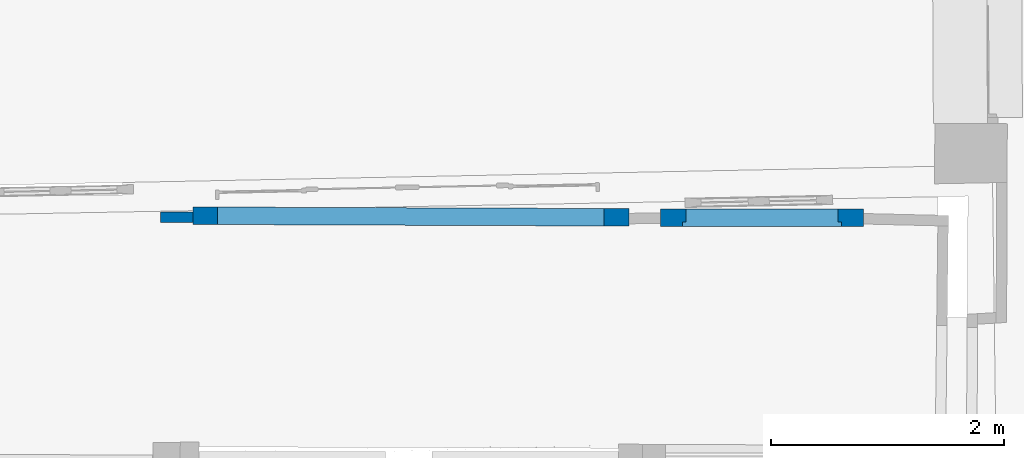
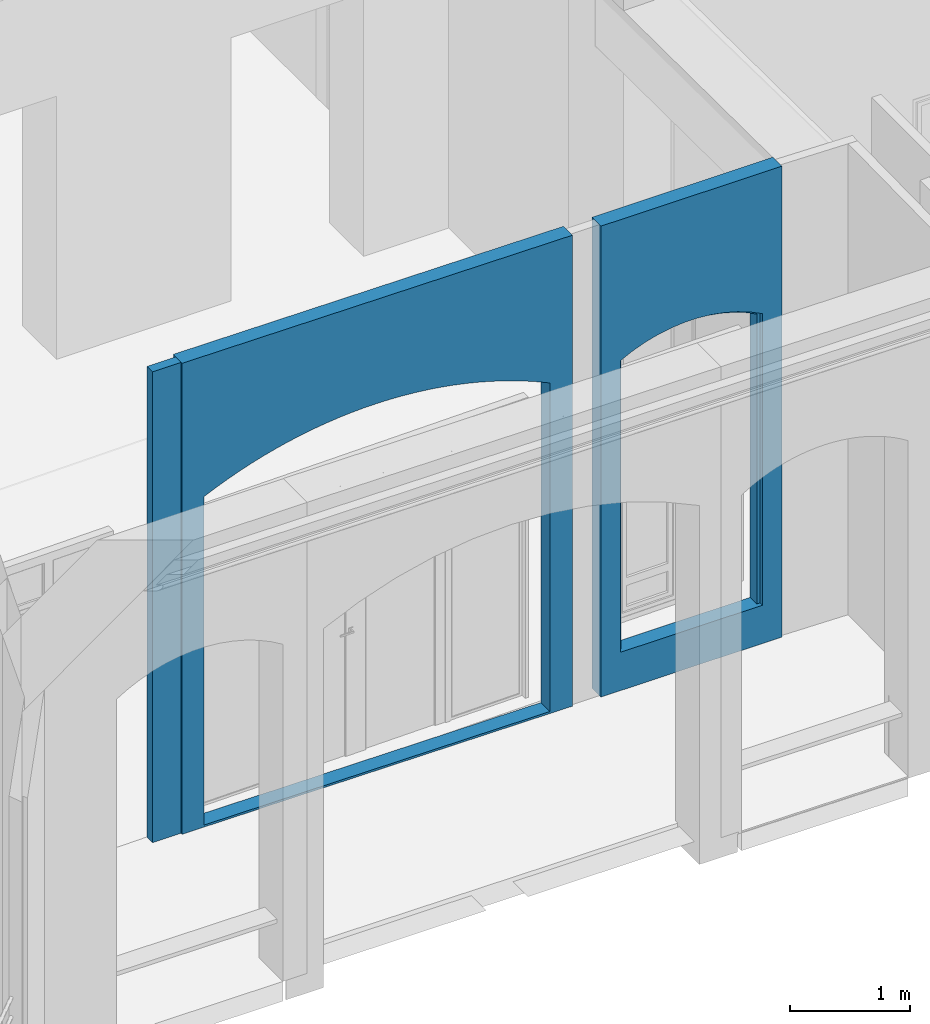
# One storey, part 8 of 97: 3 walls, 2 openings.
"""IFC2X3 building model written with IfcOpenShell, lengths in centimetres."""

from ifc_helpers import new_model, entity, si_unit, converted_unit, point, direction, frame, frame_2d, origin, origin_with_axes, origin_2d_with_axis, place, context, subcontext, project, spatial, polyline, circle_curve, trimmed, segment, composite_curve, rectangle, outline, extrude, faceted_brep, shape, material, layer, layer_set, layer_usage, type_object, element, save


model = new_model("IFC2X3")

# Units and contexts
model_context = context("Model", 3, precision=0.0001, world=origin(), true_north=direction((0.225632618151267, 0.974212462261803, 0.0)))
body_context = subcontext(model_context, "Body", "Model", "MODEL_VIEW")
footprint_context = subcontext(model_context, "FootPrint", "Model", "MODEL_VIEW")
profile_context = subcontext(model_context, "Profile", "Model", "MODEL_VIEW")
ifc_project = project(units=[si_unit("LENGTHUNIT", "METRE", prefix="CENTI"), si_unit("AREAUNIT", "SQUARE_METRE", prefix="CENTI"), si_unit("VOLUMEUNIT", "CUBIC_METRE", prefix="CENTI"), converted_unit("PLANEANGLEUNIT", "DEGREE", entity("IfcRatioMeasure", 0.0174532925), si_unit("PLANEANGLEUNIT", "RADIAN"), dimensions=[0, 0, 0, 0, 0, 0, 0])], contexts=[model_context])

# Site, building, storey
site_placement = place(None, origin_with_axes())
site = spatial("IfcSite", under=ifc_project, at=site_placement, Name="Default Site", CompositionType="ELEMENT")
building_placement = place(site_placement, origin_with_axes())
building = spatial("IfcBuilding", under=site, at=building_placement, Name="Default Building", CompositionType="ELEMENT")
storey_placement = place(building_placement, origin_with_axes())
storey = spatial("IfcBuildingStorey", under=building, at=storey_placement, Name="Rez-de-chaussée", CompositionType="ELEMENT", Elevation=0.0)

# Wall
ifc_material = material(Name="<aucun>")
ifc_layer_1 = layer(ifc_material, 9.0)
ifc_layer_set_1 = layer_set([ifc_layer_1], Name="default")
ifc_layer_usage_1 = layer_usage(ifc_layer_set_1, "AXIS2", "POSITIVE", -4.5)
wall_type_1 = type_object("IfcWallType", Name="default 90", PredefinedType="NOTDEFINED", material=ifc_layer_set_1)
wall_1_placement = place(storey_placement, frame((-423.648617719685, -738.485585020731, 0.0128503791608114), z_axis=(0.0, 0.0, 1.0), x_axis=(0.999995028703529, 0.00315318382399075, 0.0)))
element("IfcWallStandardCase", 1, at=wall_1_placement, inside=storey, type_object=wall_type_1, material=ifc_layer_usage_1, Name="Enveloppe 378519", context=body_context, shape_type="SweptSolid", body=[
    extrude(outline(polyline([(0.315310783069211, -4.50000000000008), (27.9587956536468, -4.49999999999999), (27.9587956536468, 4.50000000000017), (0.382259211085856, 4.50000000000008), (0.315310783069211, -4.50000000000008)])), origin_with_axes(), (0.0, 0.0, 1.0), 477.795358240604),
])

# Wall, opening
ifc_layer_2 = layer(ifc_material, 15.0)
ifc_layer_set_2 = layer_set([ifc_layer_2], Name="default")
ifc_layer_usage_2 = layer_usage(ifc_layer_set_2, "AXIS2", "POSITIVE", -7.5)
wall_type_2 = type_object("IfcWallType", Name="default 150", PredefinedType="NOTDEFINED", material=ifc_layer_set_2)
wall_2_placement = place(storey_placement, frame((5.13642061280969, -739.030000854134, 0.0128503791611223), z_axis=(0.0, 0.0, 1.0), x_axis=(0.999999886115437, 0.000477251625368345, 0.0)))
wall_2 = element("IfcWallStandardCase", 2, at=wall_2_placement, inside=storey, type_object=wall_type_2, material=ifc_layer_usage_2, Name="Enveloppe 376261", context=body_context, shape_type="SweptSolid", body=[
    extrude(rectangle(XDim=14.9999999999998, YDim=173.791898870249, at=origin_2d_with_axis()), frame((86.8951141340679, 1.99324556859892e-07, -2.71050543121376e-18), z_axis=(0.0, 0.0, 1.0), x_axis=(9.22330788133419e-16, 1.0, 0.0)), (0.0, 0.0, 1.0), 477.795358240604),
])
opening_1_placement = place(wall_2_placement, frame((18.6564598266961, 1.13686837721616e-13, 38.9168999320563), z_axis=(0.0, 0.0, 1.0), x_axis=(-1.0, -3.52907807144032e-17, 0.0)))
cartesian_point_1 = entity("IfcCartesianPoint", [-1.38777878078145e-14, 8.88178419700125e-14, 295.841452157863])
cartesian_point_2 = entity("IfcCartesianPoint", [-136.196322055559, -8.88178419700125e-14, 295.841452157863])
cartesian_point_3 = entity("IfcCartesianPoint", [-136.196322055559, -7.49999999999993])
element("IfcOpeningElement", 3, at=opening_1_placement, cuts=wall_2, Name="Baie 380010", ObjectType="Opening", shapes=[
    shape(body_context, "Body", "Brep", [faceted_brep([(-2.99999941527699, -27.4999979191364, 294.05002416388), (-14.123750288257, -27.49999791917, 294.05002416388), (-14.123750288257, -27.49999791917, 1.20417102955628e-06), (-2.99999941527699, -27.4999979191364, 1.20417102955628e-06), (-14.123750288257, -27.4999819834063, 299.333284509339), (-14.123750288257, -27.4999819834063, 294.05002416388), (-2.99999941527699, -27.4999819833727, 294.05002416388), (-25.6717045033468, -27.4999819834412, 299.333284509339), (-25.6717045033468, -27.4999819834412, 1.20417102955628e-06), (-14.123750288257, -27.4999819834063, 1.20417102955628e-06), (-25.6717045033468, -27.5000020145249, 303.610609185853), (-25.6717045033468, -27.5000020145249, 299.333284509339), (-14.123750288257, -27.50000201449, 299.333284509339), (-37.5531020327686, -27.5000020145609, 303.610609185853), (-37.5531020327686, -27.5000020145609, 1.20417102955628e-06), (-25.6717045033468, -27.5000020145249, 1.20417102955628e-06), (-37.5531020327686, -27.5000059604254, 306.848381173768), (-37.5531020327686, -27.5000059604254, 303.610609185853), (-25.6717045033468, -27.5000059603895, 303.610609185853), (-49.6745721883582, -27.5000059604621, 306.848381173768), (-49.6745721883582, -27.5000059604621, 1.20417102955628e-06), (-37.5531020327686, -27.5000059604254, 1.20417102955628e-06), (-49.6745721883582, -27.4999906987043, 309.021113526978), (-49.6745721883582, -27.4999906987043, 306.848381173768), (-37.5531020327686, -27.4999906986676, 306.848381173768), (-61.9408339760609, -27.4999906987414, 309.021113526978), (-61.9408339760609, -27.4999906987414, 1.20417102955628e-06), (-49.6745721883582, -27.4999906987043, 1.20417102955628e-06), (-61.9408339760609, -27.5000017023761, 310.111783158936), (-61.9408339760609, -27.5000017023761, 309.021113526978), (-49.6745721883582, -27.5000017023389, 309.021113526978), (-74.2554887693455, -27.5000017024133, 310.111783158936), (-74.2554887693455, -27.5000017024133, 1.20417102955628e-06), (-61.9408339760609, -27.5000017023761, 1.20417102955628e-06), (-74.2554887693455, -27.4999896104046, 309.021113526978), (-86.5217505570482, -27.4999896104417, 309.021113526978), (-86.5217505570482, -27.4999896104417, 1.20417102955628e-06), (-74.2554887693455, -27.4999896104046, 1.20417102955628e-06), (-74.2554887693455, -27.4999896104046, 310.111783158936), (-86.5217505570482, -27.5000006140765, 306.848381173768), (-98.6432147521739, -27.5000006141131, 306.848381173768), (-98.6432147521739, -27.5000006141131, 1.20417102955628e-06), (-86.5217505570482, -27.5000006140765, 1.20417102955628e-06), (-86.5217505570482, -27.5000006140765, 309.021113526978), (-98.6432147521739, -27.4999853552, 303.610609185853), (-110.524615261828, -27.4999853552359, 303.610609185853), (-110.524615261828, -27.4999853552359, 1.20417102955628e-06), (-98.6432147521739, -27.4999853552, 1.20417102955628e-06), (-98.6432147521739, -27.4999853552, 306.848381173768), (-110.524615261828, -27.4999892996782, 299.333284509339), (-122.072575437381, -27.4999892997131, 299.333284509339), (-122.072575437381, -27.4999892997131, 1.20417102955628e-06), (-110.524615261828, -27.4999892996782, 1.20417102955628e-06), (-110.524615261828, -27.4999892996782, 303.610609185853), (-122.072575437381, -27.500009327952, 294.05002416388), (-133.196317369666, -27.5000093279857, 294.05002416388), (-133.196317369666, -27.5000093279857, 1.20417102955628e-06), (-122.072575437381, -27.500009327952, 1.20417102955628e-06), (-122.072575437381, -27.500009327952, 299.333284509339), (-1.1836118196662e-08, 27.4999784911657, 1.20417102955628e-06), (-11.5960402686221, 27.4999784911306, 1.20417102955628e-06), (-11.5960402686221, 27.4999784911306, 295.841453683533), (-1.1836118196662e-08, 27.4999784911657, 295.841453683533), (-11.5960402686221, 27.4999784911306, 301.514814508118), (-11.5960402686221, 27.4999814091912, 1.20417102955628e-06), (-23.6596730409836, 27.4999814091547, 1.20417102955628e-06), (-23.6596730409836, 27.4999814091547, 301.514814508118), (-11.5960402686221, 27.4999814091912, 301.514814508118), (-23.6596730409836, 27.4999814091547, 306.110880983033), (-23.6596730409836, 27.5000167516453, 1.20417102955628e-06), (-36.0910605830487, 27.5000167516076, 1.20417102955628e-06), (-36.0910605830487, 27.5000167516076, 306.110880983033), (-23.6596730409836, 27.5000167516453, 306.110880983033), (-36.0910605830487, 27.5000167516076, 309.591649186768), (-36.0910605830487, 27.4999891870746, 1.20417102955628e-06), (-48.7873341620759, 27.4999891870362, 1.20417102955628e-06), (-48.7873341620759, 27.4999891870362, 309.591649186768), (-36.0910605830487, 27.4999891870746, 309.591649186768), (-48.7873341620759, 27.4999891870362, 311.928270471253), (-48.7873341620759, 27.4999926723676, 1.20417102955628e-06), (-61.643413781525, 27.4999926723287, 1.20417102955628e-06), (-61.643413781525, 27.4999926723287, 311.928270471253), (-48.7873341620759, 27.4999926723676, 311.928270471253), (-61.643413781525, 27.4999926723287, 313.10143293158), (-61.643413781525, 27.4999770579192, 1.20417102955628e-06), (-74.5529110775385, 27.4999770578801, 1.20417102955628e-06), (-74.5529110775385, 27.4999770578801, 313.10143293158), (-61.643413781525, 27.4999770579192, 313.10143293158), (-74.5529110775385, 27.4999869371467, 1.20417102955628e-06), (-87.4089906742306, 27.4999869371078, 1.20417102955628e-06), (-87.4089906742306, 27.4999869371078, 311.928270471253), (-74.5529110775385, 27.4999869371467, 311.928270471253), (-74.5529110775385, 27.4999869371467, 313.10143293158), (-87.4089906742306, 27.5000190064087, 1.20417102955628e-06), (-100.105258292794, 27.5000190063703, 1.20417102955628e-06), (-100.105258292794, 27.5000190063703, 309.591649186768), (-87.4089906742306, 27.5000190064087, 309.591649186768), (-87.4089906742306, 27.5000190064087, 311.928270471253), (-100.105258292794, 27.500022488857, 1.20417102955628e-06), (-112.536654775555, 27.5000224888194, 1.20417102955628e-06), (-112.536654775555, 27.5000224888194, 306.110880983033), (-100.105258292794, 27.500022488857, 306.110880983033), (-100.105258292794, 27.500022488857, 309.591649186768), (-112.536654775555, 27.4999949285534, 1.20417102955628e-06), (-124.600278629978, 27.4999949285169, 1.20417102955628e-06), (-124.600278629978, 27.4999949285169, 301.514814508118), (-112.536654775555, 27.4999949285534, 301.514814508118), (-112.536654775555, 27.4999949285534, 306.110880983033), (-124.600278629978, 27.49998258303, 1.20417102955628e-06), (-136.196327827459, 27.499982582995, 1.20417102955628e-06), (-136.196327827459, 27.499982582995, 295.841453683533), (-124.600278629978, 27.49998258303, 295.841453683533), (-124.600278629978, 27.49998258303, 301.514814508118), (-2.99999941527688, -27.4999979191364, 1.20417102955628e-06), (-2.99999941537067, 3.49999989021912, 1.20417102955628e-06), (-2.99999941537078, 3.49999989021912, 294.05002416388), (-3.00000146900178, 3.49999989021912, 294.05002416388), (-3.00000146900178, 3.49999989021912, 1.20417102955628e-06), (4.81383682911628e-07, 3.4999998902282, 1.20417102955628e-06), (4.81383682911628e-07, 3.4999998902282, 295.841453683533), (4.81383682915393e-07, 3.49999864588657, 295.841453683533), (4.81383860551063e-07, 3.49999864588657, 1.20417102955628e-06), (4.81311248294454e-07, 27.4999784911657, 1.20417102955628e-06), (4.81311070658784e-07, 27.4999784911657, 295.841453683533), (-133.196317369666, -27.4999933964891, 1.20417102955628e-06), (-133.196316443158, 3.5000044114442, 1.20417102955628e-06), (-136.196325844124, 3.50000565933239, 1.20417102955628e-06), (-136.196327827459, 27.4999855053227, 1.20417102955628e-06), (4.81383682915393e-07, 3.49999864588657, 1.20417102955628e-06), (-133.196317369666, -27.4999933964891, 294.05002416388), (-133.196317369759, 3.5000044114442, 294.05002416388), (-133.196317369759, 3.5000044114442, 1.20417102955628e-06), (-133.196316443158, 3.5000044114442, 294.05002416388), (-136.196325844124, 3.50000441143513, 295.841453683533), (-136.196325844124, 3.50000441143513, 1.20417102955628e-06), (-136.196325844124, 3.50000565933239, 295.841453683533), (-136.196325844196, 27.4999855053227, 295.841453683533), (-136.196325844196, 27.4999855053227, 1.20417102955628e-06), (-122.07257744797, -27.500009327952, 299.333288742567), (-122.07257669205, 3.49998847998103, 299.333289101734), (-133.196316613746, 3.5000044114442, 294.050024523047), (-110.524615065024, -27.4999892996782, 303.61060865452), (-110.524614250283, 3.500008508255, 303.610608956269), (-122.072574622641, 3.49998847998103, 299.333284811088), (-98.6432111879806, -27.4999853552, 306.848368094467), (-98.6432103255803, 3.50001245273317, 306.848368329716), (-110.524614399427, 3.500008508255, 303.610609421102), (-86.521753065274, -27.5000006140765, 309.021127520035), (-86.5217521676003, 3.49999719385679, 309.021127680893), (-98.6432138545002, 3.50001245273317, 306.848381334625), (-74.2554878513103, -27.4999896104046, 310.111772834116), (-74.2554869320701, 3.50000819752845, 310.111772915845), (-86.521749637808, 3.49999719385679, 309.021113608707), (-61.9408330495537, 3.49999610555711, 310.111783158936), (-74.2554878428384, 3.50000819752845, 310.111783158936), (-49.674571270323, -27.4999906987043, 309.021123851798), (-49.6745703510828, 3.50000710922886, 309.02112377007), (-61.9408330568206, 3.49999610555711, 310.111783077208), (-37.5531047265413, -27.5000059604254, 306.848366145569), (-37.5531096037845, 3.49999185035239, 306.848367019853), (-49.6745712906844, 3.50000710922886, 309.021113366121), (-25.6717007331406, -27.5000020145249, 303.610623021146), (-25.6716998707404, 3.49999579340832, 303.610622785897), (-37.5531067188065, 3.49999185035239, 306.848382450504), (-14.1237493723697, -27.4999819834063, 299.33328698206), (-14.1237485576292, 3.50001582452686, 299.333286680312), (-25.6717036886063, 3.49999579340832, 303.610608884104), (-3.00000307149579, -27.4999979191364, 294.050016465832), (-3.00000474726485, 3.49999989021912, 294.050017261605), (-14.1237495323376, 3.50001582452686, 299.333284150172), (-122.072574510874, 3.50000441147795, 299.333284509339), (-124.600276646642, 3.50000441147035, 301.514814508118), (-136.196325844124, 3.50000441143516, 295.841453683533), (-122.072574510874, 3.49998847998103, 299.333284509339), (-110.524614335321, 3.49998848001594, 303.610609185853), (-112.536652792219, 3.49998848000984, 306.110880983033), (-124.600276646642, 3.49998847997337, 301.514814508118), (-110.524614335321, 3.500008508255, 303.610609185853), (-98.6432138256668, 3.50000850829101, 306.848381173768), (-100.105256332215, 3.50000850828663, 309.591649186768), (-112.536652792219, 3.50000850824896, 306.110880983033), (-98.6432138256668, 3.50001245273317, 306.848381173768), (-86.5217496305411, 3.50001245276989, 309.021113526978), (-87.408988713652, 3.50001245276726, 311.928270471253), (-100.105256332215, 3.5000124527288, 309.591649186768), (-86.5217496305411, 3.49999719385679, 309.021113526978), (-74.2554878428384, 3.49999719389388, 310.111783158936), (-74.5529090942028, 3.49999719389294, 313.10143293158), (-87.408988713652, 3.49999719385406, 311.928270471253), (-61.9408330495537, 3.50000819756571, 310.111783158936), (-61.6434117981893, 3.50000819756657, 313.10143293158), (-74.5529090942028, 3.50000819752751, 313.10143293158), (-49.674571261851, 3.49999610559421, 309.021113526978), (-48.7873321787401, 3.49999610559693, 311.928270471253), (-61.6434117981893, 3.49999610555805, 313.10143293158), (-49.674571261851, 3.50000710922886, 309.021113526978), (-37.5531070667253, 3.50000710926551, 306.848381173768), (-36.0910645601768, 3.50000710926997, 309.591649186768), (-48.7873321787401, 3.50000710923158, 311.928270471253), (-37.5531070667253, 3.49999185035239, 306.848381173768), (-25.6717035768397, 3.49999185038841, 303.610609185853), (-23.6596710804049, 3.49999185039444, 306.110880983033), (-36.0910645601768, 3.49999185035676, 309.591649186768), (-25.6717035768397, 3.49999579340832, 303.610609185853), (-14.1237493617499, 3.49999579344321, 299.333284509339), (-11.5960382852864, 3.49999579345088, 301.514814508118), (-23.6596710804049, 3.49999579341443, 306.110880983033), (-14.1237493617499, 3.50001582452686, 299.333284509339), (-3.00000146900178, 3.50001582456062, 294.05002416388), (4.81383682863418e-07, 3.50001582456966, 295.841453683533), (-11.5960382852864, 3.50001582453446, 301.514814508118), (-124.600277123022, 3.50000273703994, 301.514815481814), (-124.600278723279, 27.49998258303, 301.514814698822), (-136.196327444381, 27.4999855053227, 295.841452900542), (-124.600276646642, 3.50000273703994, 301.514814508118), (-112.536654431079, 3.50001508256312, 306.110885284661), (-112.536656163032, 27.4999949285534, 306.11088462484), (-124.600278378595, 27.49998258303, 301.514813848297), (-112.536652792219, 3.50001508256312, 306.110880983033), (-100.105253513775, 3.49999495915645, 309.591639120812), (-100.105255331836, 27.500022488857, 309.591638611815), (-112.536654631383, 27.4999949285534, 306.110880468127), (-100.105256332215, 3.49999495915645, 309.591649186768), (-87.4089904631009, 3.49999147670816, 311.92827997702), (-87.4089923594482, 27.5000190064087, 311.928279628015), (-100.105258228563, 27.500022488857, 309.591648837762), (-87.408988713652, 3.49999147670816, 311.928270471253), (-74.5529097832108, 3.50000709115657, 313.101440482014), (-74.5529117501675, 27.4999869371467, 313.101440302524), (-87.4089906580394, 27.5000190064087, 311.928270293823), (-74.5529090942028, 3.50000709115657, 313.10143293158), (-61.6434117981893, 3.499997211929, 313.10143293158), (-48.7873328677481, 3.5000128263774, 311.92826292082), (-48.7873348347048, 27.4999926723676, 311.928263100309), (-61.6434137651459, 27.4999770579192, 313.10143311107), (-48.7873321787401, 3.5000128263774, 311.928270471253), (-36.0910663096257, 3.50000934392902, 309.591639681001), (-36.0910624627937, 27.4999891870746, 309.591638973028), (-48.787334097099, 27.4999926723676, 311.92827082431), (-36.0910645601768, 3.50000934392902, 309.591649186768), (-23.6596680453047, 3.49998922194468, 306.110891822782), (-23.6596698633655, 27.5000167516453, 306.110892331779), (-36.0910608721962, 27.4999891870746, 309.591648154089), (-23.6596710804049, 3.49998922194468, 306.110880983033), (-11.596041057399, 3.50000156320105, 301.514807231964), (-11.5960427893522, 27.4999814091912, 301.514807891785), (-23.6596727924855, 27.5000167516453, 306.110881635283), (-11.5960382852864, 3.50000156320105, 301.514814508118), (2.01956136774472e-06, 3.49999864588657, 295.841456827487), (1.62162595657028e-06, 27.4999784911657, 295.841457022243), (-11.5960398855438, 27.4999814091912, 301.51481529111)], [[[0, 1, 2, 3]], [[4, 5, 6]], [[4, 7, 8, 9]], [[10, 11, 12]], [[10, 13, 14, 15]], [[16, 17, 18]], [[16, 19, 20, 21]], [[22, 23, 24]], [[22, 25, 26, 27]], [[28, 29, 30]], [[28, 31, 32, 33]], [[34, 35, 36, 37]], [[38, 35, 34]], [[39, 40, 41, 42]], [[43, 40, 39]], [[44, 45, 46, 47]], [[48, 45, 44]], [[49, 50, 51, 52]], [[53, 50, 49]], [[54, 55, 56, 57]], [[58, 55, 54]], [[59, 60, 61, 62]], [[62, 61, 63]], [[64, 65, 66, 67]], [[67, 66, 68]], [[69, 70, 71, 72]], [[72, 71, 73]], [[74, 75, 76, 77]], [[77, 76, 78]], [[79, 80, 81, 82]], [[82, 81, 83]], [[84, 85, 86, 87]], [[88, 89, 90, 91]], [[91, 90, 92]], [[93, 94, 95, 96]], [[96, 95, 97]], [[98, 99, 100, 101]], [[101, 100, 102]], [[103, 104, 105, 106]], [[106, 105, 107]], [[108, 109, 110, 111]], [[111, 110, 112]], [[0, 113, 114, 115]], [[116, 117, 118, 119]], [[120, 121, 122, 123]], [[3, 124, 125, 126, 127, 59, 128, 117]], [[124, 129, 130, 131]], [[125, 132, 133, 134]], [[126, 135, 136, 137]], [[129, 138, 139, 140]], [[58, 141, 142, 143]], [[53, 144, 145, 146]], [[48, 147, 148, 149]], [[43, 150, 151, 152]], [[38, 28, 153, 154]], [[28, 155, 156, 157]], [[22, 158, 159, 160]], [[16, 161, 162, 163]], [[10, 164, 165, 166]], [[4, 167, 168, 169]], [[132, 170, 171, 172]], [[173, 174, 175, 176]], [[177, 178, 179, 180]], [[181, 182, 183, 184]], [[185, 186, 187, 188]], [[154, 189, 190, 191]], [[153, 192, 193, 194]], [[195, 196, 197, 198]], [[199, 200, 201, 202]], [[203, 204, 205, 206]], [[207, 208, 209, 210]], [[135, 211, 212, 213]], [[214, 215, 216, 217]], [[218, 219, 220, 221]], [[222, 223, 224, 225]], [[226, 227, 228, 229]], [[230, 231, 87, 92]], [[231, 232, 233, 234]], [[235, 236, 237, 238]], [[239, 240, 241, 242]], [[243, 244, 245, 246]], [[247, 248, 249, 250]]])]),
    shape(profile_context, "Profile", "GeometricCurveSet", [entity("IfcGeometricCurveSet", [entity("IfcCompositeCurve", [entity("IfcCompositeCurveSegment", "CONTINUOUS", True, entity("IfcPolyline", [cartesian_point_1, entity("IfcCartesianPoint", [2.77555756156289e-15, 8.88178419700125e-14, 0.0]), entity("IfcCartesianPoint", [-136.196322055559, -8.88178419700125e-14, 0.0]), cartesian_point_2])), entity("IfcCompositeCurveSegment", "CONTINUOUS", True, entity("IfcTrimmedCurve", entity("IfcCircle", entity("IfcAxis2Placement3D", entity("IfcCartesianPoint", [-68.0981610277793, 0.0, 171.339969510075]), entity("IfcDirection", [-1.30426197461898e-15, 1.0, 0.0]), entity("IfcDirection", [1.0, 1.30426197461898e-15, 0.0])), 141.908346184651), [cartesian_point_2], [cartesian_point_1], True, "CARTESIAN"))], False)])]),
    shape(footprint_context, "FootPrint", "GeometricCurveSet", [entity("IfcGeometricCurveSet", [entity("IfcPolyline", [cartesian_point_3, entity("IfcCartesianPoint", [5.55111512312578e-15, -7.49999999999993]), entity("IfcCartesianPoint", [-2.77555756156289e-15, 7.50000000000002]), entity("IfcCartesianPoint", [-136.196322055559, 7.49999999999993]), cartesian_point_3])])]),
])

ifc_layer_usage_3 = layer_usage(ifc_layer_set_2, "AXIS2", "POSITIVE", -7.5)
wall_3_placement = place(storey_placement, frame((-22.1113462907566, -738.55005473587, 0.0128503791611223), z_axis=(0.0, 0.0, 1.0), x_axis=(-0.999992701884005, 0.00382049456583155, 0.0)))
wall_3 = element("IfcWallStandardCase", 4, at=wall_3_placement, inside=storey, type_object=wall_type_2, material=ifc_layer_usage_3, Name="Enveloppe 376323", context=body_context, shape_type="SweptSolid", body=[
    extrude(outline(polyline([(373.607854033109, -3.22557864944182), (373.545090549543, 5.77440041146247), (373.507855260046, 5.77425815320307), (373.507855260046, 7.50000000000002), (-1.19348975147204e-13, 7.50000000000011), (-1.22124532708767e-13, -7.50000000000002), (373.507855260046, -7.50000000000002), (373.507855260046, -3.22596069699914), (373.607854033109, -3.22557864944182)])), frame((0.0, 0.0, -8.13151629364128e-18), z_axis=(0.0, 0.0, 1.0), x_axis=(1.0, 0.0, 0.0)), (0.0, 0.0, 1.0), 477.795358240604),
])
opening_2_placement = place(wall_3_placement, frame((21.4267298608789, 1.13686837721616e-13, 2.08497032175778), z_axis=(0.0, 0.0, 1.0), x_axis=(1.0, -3.55618312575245e-17, 0.0)))
cartesian_point_4 = entity("IfcCartesianPoint", [2.22044604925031e-14, 0.0, 333.308965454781])
cartesian_point_5 = entity("IfcCartesianPoint", [330.993620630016, 0.0, 333.308965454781])
cartesian_point_6 = entity("IfcCartesianPoint", [330.993620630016, 7.50000000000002])
element("IfcOpeningElement", 5, at=opening_2_placement, cuts=wall_3, Name="Baie 380009", ObjectType="Opening", shapes=[
    shape(body_context, "Body", "SweptSolid", [extrude(outline(composite_curve([segment(polyline([(2.22044604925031e-14, 333.308965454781), (5.55111512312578e-15, -3.46944695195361e-16), (330.993620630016, -3.46944695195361e-16), (330.993620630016, 333.308965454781)]), True, "CONTINUOUS"), segment(trimmed(circle_curve(frame_2d((165.496810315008, -20.6367095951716), x_axis=(1.0, 0.0)), 390.725907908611), [point((330.993620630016, 333.308965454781))], [point((2.22044604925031e-14, 333.308965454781))], True, "CARTESIAN"), True, "CONTINUOUS")], self_intersect=False)), frame((0.0, 17.5, 0.0), z_axis=(0.0, -1.0, 0.0), x_axis=(1.0, 0.0, 0.0)), (0.0, 0.0, 1.0), 35.0)]),
    shape(profile_context, "Profile", "GeometricCurveSet", [entity("IfcGeometricCurveSet", [entity("IfcCompositeCurve", [entity("IfcCompositeCurveSegment", "CONTINUOUS", True, entity("IfcPolyline", [cartesian_point_4, entity("IfcCartesianPoint", [0.0, 0.0, -3.46944695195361e-16]), entity("IfcCartesianPoint", [330.993620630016, 0.0, -3.46944695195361e-16]), cartesian_point_5])), entity("IfcCompositeCurveSegment", "CONTINUOUS", True, entity("IfcTrimmedCurve", entity("IfcCircle", entity("IfcAxis2Placement3D", entity("IfcCartesianPoint", [165.496810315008, 0.0, -20.6367095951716]), entity("IfcDirection", [0.0, -1.0, 0.0]), entity("IfcDirection", [-1.0, 0.0, 0.0])), 390.725907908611), [cartesian_point_5], [cartesian_point_4], True, "CARTESIAN"))], False)])]),
    shape(footprint_context, "FootPrint", "GeometricCurveSet", [entity("IfcGeometricCurveSet", [entity("IfcPolyline", [cartesian_point_6, entity("IfcCartesianPoint", [5.55111512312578e-15, 7.50000000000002]), entity("IfcCartesianPoint", [5.55111512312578e-15, -7.50000000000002]), entity("IfcCartesianPoint", [330.993620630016, -7.50000000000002]), cartesian_point_6])])]),
])

save(model, "model.ifc")
